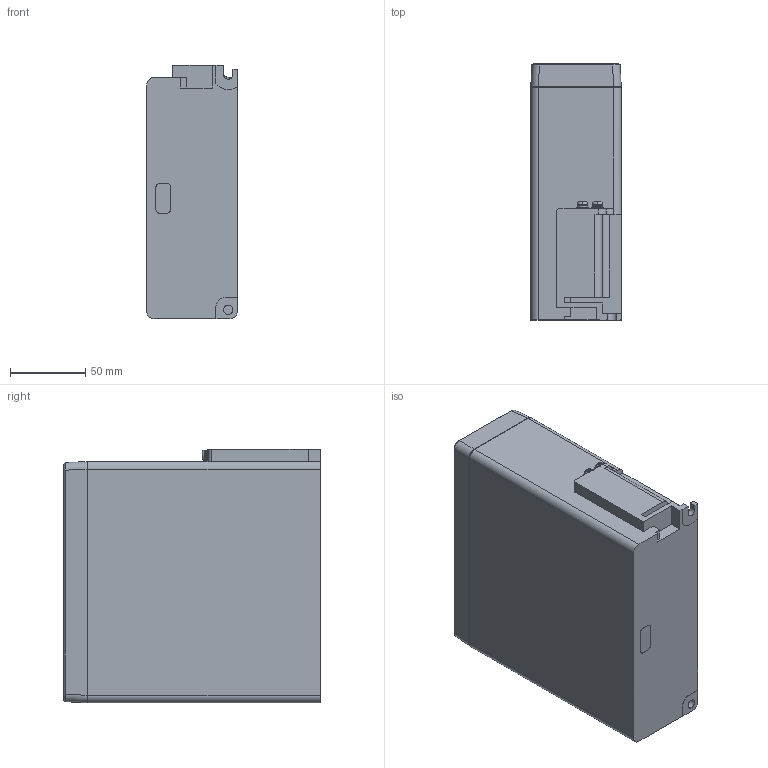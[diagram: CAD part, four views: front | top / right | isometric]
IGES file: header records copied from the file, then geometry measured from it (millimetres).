
Global section: file name: 7HNo Iges File Name specified; native system: AutoDesk Inventor R12.0; preprocessor: AutoDesk Inventor Iges Exporter R12.0; author: No Author specified; organization: No Organization specified; date: 20140818.200333; units: millimetre
Bounding box: 60 x 170.3 x 168.2 mm (x, y, z)
Volume: 1508667.8 mm3; surface area: 115912.2 mm2
Topology: 1 solids, 1 shells, 2146 faces, 5997 edges, 3998 vertices
Faces by surface type: plane 1338, bspline 590, revolution 128, cylinder 82, torus 8
